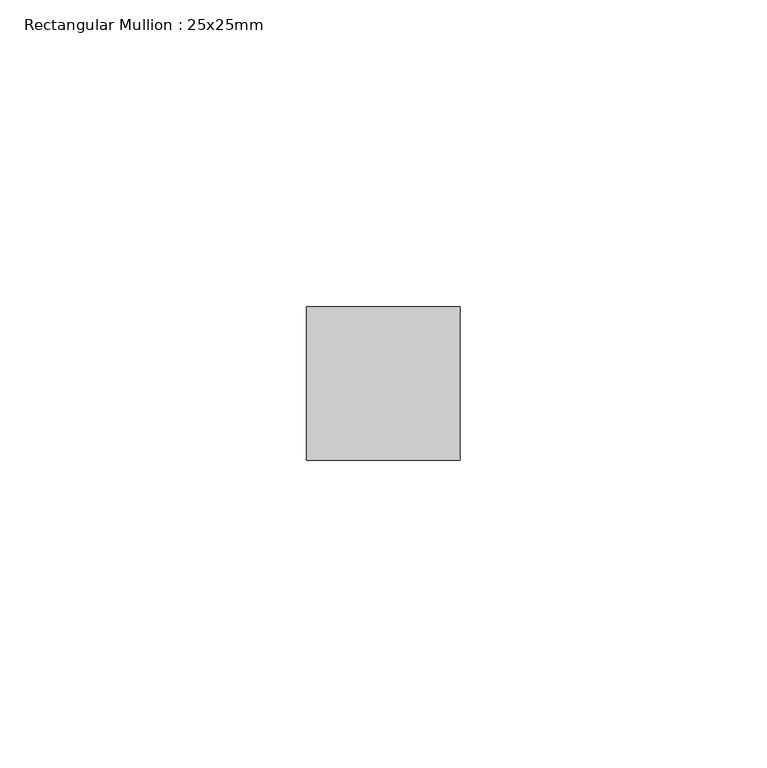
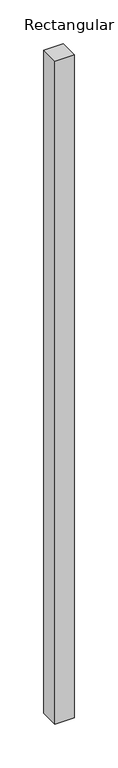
"""IFC4 building model written with IfcOpenShell, lengths in millimetres: member geometry, Rectangular Mullion : 25x25mm."""

from ifc_helpers import new_model, si_unit, frame, origin, place, context, project, spatial, polyline, outline, extrude, source, transform, mapped, element, save


def rectangular_mullion_25x25mm_78defac4(model_context):
    return source(origin(), model_context, "Body", "SweptSolid", [
        extrude(outline(polyline([(0.0, 24.5), (0.0, -0.5), (-25.0, -0.5), (-25.0, 24.5), (0.0, 24.5)])), frame((0.0, 0.0, -920.0), z_axis=(0.0, 0.0, 1.0), x_axis=(1.0, 0.0, 0.0)), (0.0, 0.0, 1.0), 920.0),
    ])


if __name__ == "__main__":
    model = new_model("IFC4")
    model_context = context("Model", 3, world=origin())
    ifc_project = project(units=[si_unit("LENGTHUNIT", "METRE", prefix="MILLI")], contexts=[model_context])
    site = spatial("IfcSite", under=ifc_project)
    building = spatial("IfcBuilding", under=site)
    placement = place(None, origin())
    rectangular_mullion_25x25mm_shape = rectangular_mullion_25x25mm_78defac4(model_context)
    element("IfcMember", 1, ObjectType="Rectangular Mullion : 25x25mm", at=placement, inside=building, context=model_context, shape_type="MappedRepresentation", body=[
        mapped(rectangular_mullion_25x25mm_shape, transform((0.0, 0.0, 0.0), x_axis=(1.0, 0.0, 0.0), y_axis=(0.0, 1.0, 0.0), z_axis=(0.0, 0.0, 1.0))),
    ])
    save(model, "model.ifc")
